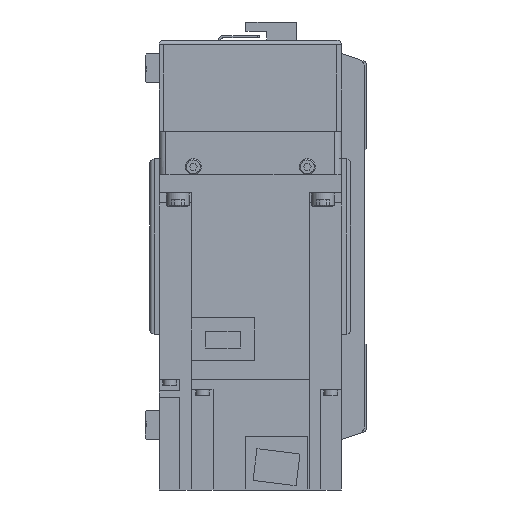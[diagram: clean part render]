
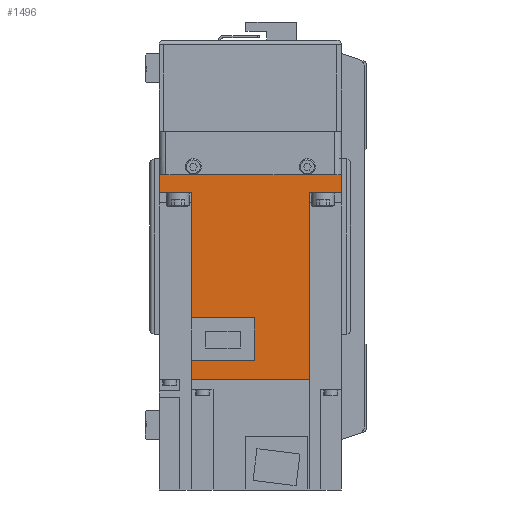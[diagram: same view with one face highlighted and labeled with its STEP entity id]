
A CAD part, left-side view. The second image highlights one B-rep face of the part: STEP entity #1496.
In plain terms, the highlighted planar face has unit normal (-1, 0, 0) as drawn and (1, 0, 0) by its records, which use the part's own axes.
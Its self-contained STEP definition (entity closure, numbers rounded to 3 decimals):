
#1496 = ADVANCED_FACE( '', ( #3755 ), #3756, .F. );
#3755 = FACE_OUTER_BOUND( '', #7001, .T. );
#3756 = PLANE( '', #7002 );
#7001 = EDGE_LOOP( '', ( #11296, #11297, #11298, #11299, #11300, #11301, #11302, #11303, #11304, #11305, #11306, #11307 ) );
#7002 = AXIS2_PLACEMENT_3D( '', #11308, #11309, #11310 );
#11296 = ORIENTED_EDGE( '', *, *, #19560, .F. );
#11297 = ORIENTED_EDGE( '', *, *, #19561, .F. );
#11298 = ORIENTED_EDGE( '', *, *, #19562, .F. );
#11299 = ORIENTED_EDGE( '', *, *, #19025, .T. );
#11300 = ORIENTED_EDGE( '', *, *, #19563, .F. );
#11301 = ORIENTED_EDGE( '', *, *, #19564, .T. );
#11302 = ORIENTED_EDGE( '', *, *, #19565, .T. );
#11303 = ORIENTED_EDGE( '', *, *, #19566, .F. );
#11304 = ORIENTED_EDGE( '', *, *, #19567, .F. );
#11305 = ORIENTED_EDGE( '', *, *, #19568, .F. );
#11306 = ORIENTED_EDGE( '', *, *, #19569, .F. );
#11307 = ORIENTED_EDGE( '', *, *, #19570, .F. );
#11308 = CARTESIAN_POINT( '', ( 40., 89.8, 40. ) );
#11309 = DIRECTION( '', ( -1., 0., 0. ) );
#11310 = DIRECTION( '', ( 0., 0., 1. ) );
#19025 = EDGE_CURVE( '', #22868, #22866, #22869, .T. );
#19560 = EDGE_CURVE( '', #22843, #23777, #23778, .T. );
#19561 = EDGE_CURVE( '', #23779, #22843, #23780, .T. );
#19562 = EDGE_CURVE( '', #22868, #23779, #23781, .T. );
#19563 = EDGE_CURVE( '', #23782, #22866, #23783, .T. );
#19564 = EDGE_CURVE( '', #23782, #23784, #23785, .T. );
#19565 = EDGE_CURVE( '', #23784, #23786, #23787, .T. );
#19566 = EDGE_CURVE( '', #23788, #23786, #23789, .T. );
#19567 = EDGE_CURVE( '', #23790, #23788, #23791, .T. );
#19568 = EDGE_CURVE( '', #22844, #23790, #23792, .T. );
#19569 = EDGE_CURVE( '', #23793, #22844, #23794, .T. );
#19570 = EDGE_CURVE( '', #23777, #23793, #23795, .T. );
#22843 = VERTEX_POINT( '', #28313 );
#22844 = VERTEX_POINT( '', #28314 );
#22866 = VERTEX_POINT( '', #28346 );
#22868 = VERTEX_POINT( '', #28349 );
#22869 = LINE( '', #28350, #28351 );
#23777 = VERTEX_POINT( '', #29730 );
#23778 = LINE( '', #29731, #29732 );
#23779 = VERTEX_POINT( '', #29733 );
#23780 = LINE( '', #29734, #29735 );
#23781 = LINE( '', #29736, #29737 );
#23782 = VERTEX_POINT( '', #29738 );
#23783 = LINE( '', #29739, #29740 );
#23784 = VERTEX_POINT( '', #29741 );
#23785 = LINE( '', #29742, #29743 );
#23786 = VERTEX_POINT( '', #29744 );
#23787 = LINE( '', #29745, #29746 );
#23788 = VERTEX_POINT( '', #29747 );
#23789 = LINE( '', #29748, #29749 );
#23790 = VERTEX_POINT( '', #29750 );
#23791 = LINE( '', #29751, #29752 );
#23792 = LINE( '', #29753, #29754 );
#23793 = VERTEX_POINT( '', #29755 );
#23794 = LINE( '', #29756, #29757 );
#23795 = LINE( '', #29758, #29759 );
#28313 = CARTESIAN_POINT( '', ( 40., 81.4, -25.95 ) );
#28314 = CARTESIAN_POINT( '', ( 40., 62.8, -25.95 ) );
#28346 = CARTESIAN_POINT( '', ( 40., 8., 25.95 ) );
#28349 = CARTESIAN_POINT( '', ( 40., 89.8, 25.95 ) );
#28350 = CARTESIAN_POINT( '', ( 40., 158., 25.95 ) );
#28351 = VECTOR( '', #35222, 1000. );
#29730 = CARTESIAN_POINT( '', ( 40., 81.4, 1.8 ) );
#29731 = CARTESIAN_POINT( '', ( 40., 81.4, -26. ) );
#29732 = VECTOR( '', #35947, 1000. );
#29733 = CARTESIAN_POINT( '', ( 40., 89.8, -25.95 ) );
#29734 = CARTESIAN_POINT( '', ( 40., 158., -25.95 ) );
#29735 = VECTOR( '', #35948, 1000. );
#29736 = CARTESIAN_POINT( '', ( 40., 89.8, 40. ) );
#29737 = VECTOR( '', #35949, 1000. );
#29738 = CARTESIAN_POINT( '', ( 40., 8., 40. ) );
#29739 = CARTESIAN_POINT( '', ( 40., 8., 40. ) );
#29740 = VECTOR( '', #35950, 1000. );
#29741 = CARTESIAN_POINT( '', ( 40., 0., 40. ) );
#29742 = CARTESIAN_POINT( '', ( 40., 89.8, 40. ) );
#29743 = VECTOR( '', #35951, 1000. );
#29744 = CARTESIAN_POINT( '', ( 40., 0., -40. ) );
#29745 = CARTESIAN_POINT( '', ( 40., 0., 40. ) );
#29746 = VECTOR( '', #35952, 1000. );
#29747 = CARTESIAN_POINT( '', ( 40., 8., -40. ) );
#29748 = CARTESIAN_POINT( '', ( 40., 89.8, -40. ) );
#29749 = VECTOR( '', #35953, 1000. );
#29750 = CARTESIAN_POINT( '', ( 40., 8., -25.95 ) );
#29751 = CARTESIAN_POINT( '', ( 40., 8., 40. ) );
#29752 = VECTOR( '', #35954, 1000. );
#29753 = CARTESIAN_POINT( '', ( 40., 158., -25.95 ) );
#29754 = VECTOR( '', #35955, 1000. );
#29755 = CARTESIAN_POINT( '', ( 40., 62.8, 1.8 ) );
#29756 = CARTESIAN_POINT( '', ( 40., 62.8, 1.8 ) );
#29757 = VECTOR( '', #35956, 1000. );
#29758 = CARTESIAN_POINT( '', ( 40., 81.4, 1.8 ) );
#29759 = VECTOR( '', #35957, 1000. );
#35222 = DIRECTION( '', ( 0., -1., 0. ) );
#35947 = DIRECTION( '', ( 0., 0., 1. ) );
#35948 = DIRECTION( '', ( 0., -1., 0. ) );
#35949 = DIRECTION( '', ( 0., 0., -1. ) );
#35950 = DIRECTION( '', ( 0., 0., -1. ) );
#35951 = DIRECTION( '', ( 0., -1., 0. ) );
#35952 = DIRECTION( '', ( 0., 0., -1. ) );
#35953 = DIRECTION( '', ( 0., -1., 0. ) );
#35954 = DIRECTION( '', ( 0., 0., -1. ) );
#35955 = DIRECTION( '', ( 0., -1., 0. ) );
#35956 = DIRECTION( '', ( 0., 0., -1. ) );
#35957 = DIRECTION( '', ( 0., -1., 0. ) );
